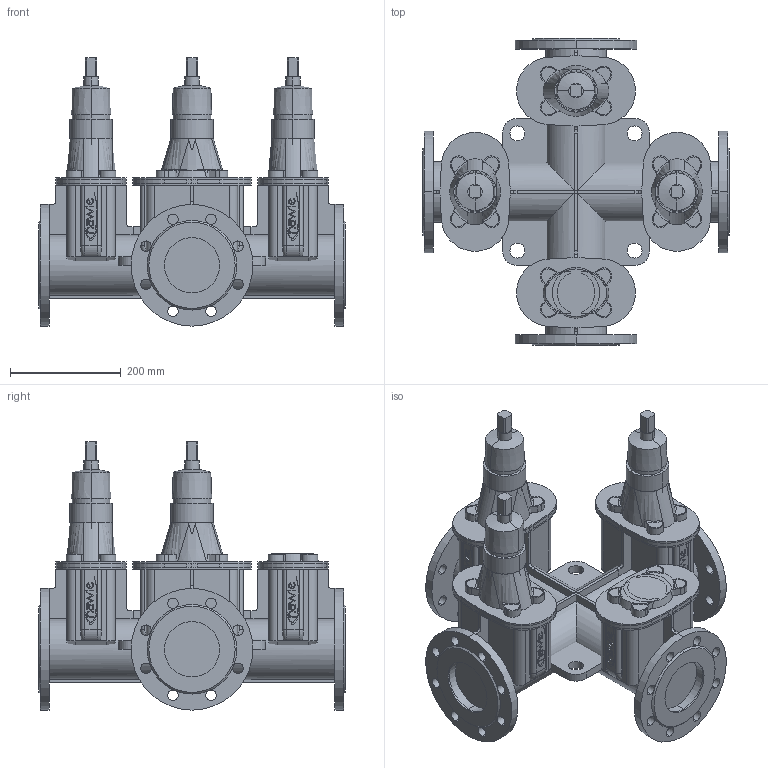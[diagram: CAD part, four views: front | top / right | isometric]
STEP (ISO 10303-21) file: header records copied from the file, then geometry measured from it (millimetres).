
FILE_DESCRIPTION(('STEP AP214'),'1');
FILE_NAME('S:/EK/USER/CAT6/3DHomepage_27-04-2012/neu_23-01-2013/4400E2/4400E2_PN16_DN100_3_9-12-3-B.STP','2013-01-23T14:59:52',(' '),(' '),'Spatial InterOp 3D',' ',' ');
FILE_SCHEMA(('automotive_design'));
Length unit declared in the file: millimetre
Products named in the file (180): 3D-Objekt
Bounding box: 555 x 555 x 485 mm (x, y, z)
Volume: 24609101.4 mm3; surface area: 2671161 mm2
Topology: 180 solids, 180 shells, 1720 faces, 4046 edges, 2694 vertices
Faces by surface type: plane 966, cylinder 662, bspline 48, cone 28, torus 16
Entity records: 68464 total; most frequent: CARTESIAN_POINT 9456, DIRECTION 9270, ORIENTED_EDGE 8092, EDGE_CURVE 4046, AXIS2_PLACEMENT_3D 3372, VERTEX_POINT 2694, LINE 2526, VECTOR 2526
